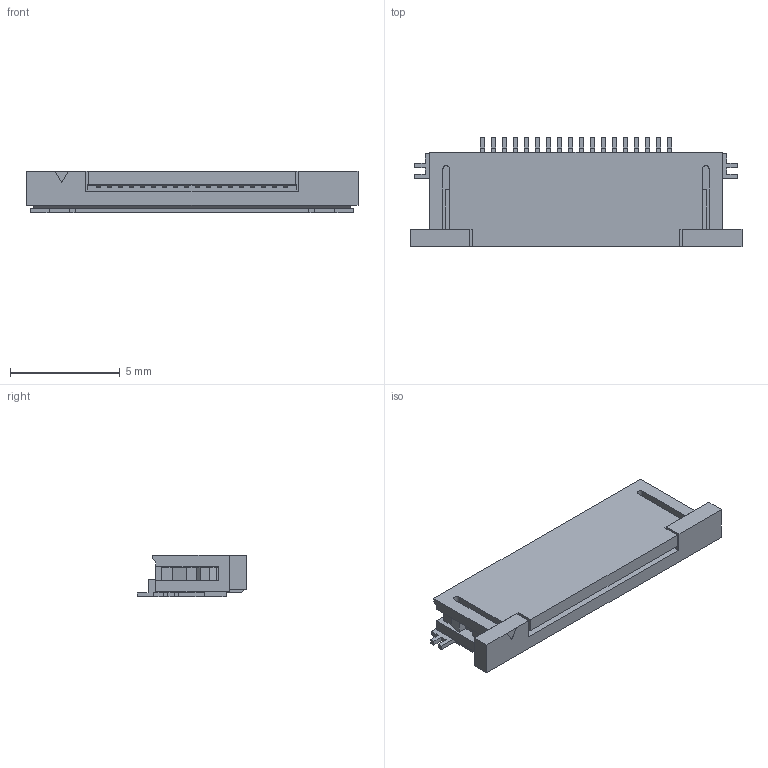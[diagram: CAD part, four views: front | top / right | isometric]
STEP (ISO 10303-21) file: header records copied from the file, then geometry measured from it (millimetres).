
FILE_DESCRIPTION(/* description */ (''),/* implementation_level */ '2;1');
FILE_NAME(/* name */ '527451897wbm000_01_214.stp',/* time_stamp */ '2022-11-28T14:45:47+08:00',/* author */ (''),/* organization */ (''),/* preprocessor_version */ 'ST-DEVELOPER v16.7',/* originating_system */ 'SIEMENS PLM Software NX 1919',/* authorisation */ '');
FILE_SCHEMA (('AUTOMOTIVE_DESIGN { 1 0 10303 214 3 1 1 1 }'));
Length unit declared in the file: millimetre
Products named in the file (1): 527451897wbm000_01
Bounding box: 15.1 x 5 x 1.91 mm (x, y, z)
Volume: 92.1 mm3; surface area: 352.6 mm2
Topology: 1 solids, 1 shells, 440 faces, 1302 edges, 866 vertices
Faces by surface type: plane 400, cylinder 40
Entity records: 14518 total; most frequent: CARTESIAN_POINT 2609, ORIENTED_EDGE 2604, DIRECTION 2264, EDGE_CURVE 1302, LINE 1222, VECTOR 1222, VERTEX_POINT 866, AXIS2_PLACEMENT_3D 521
